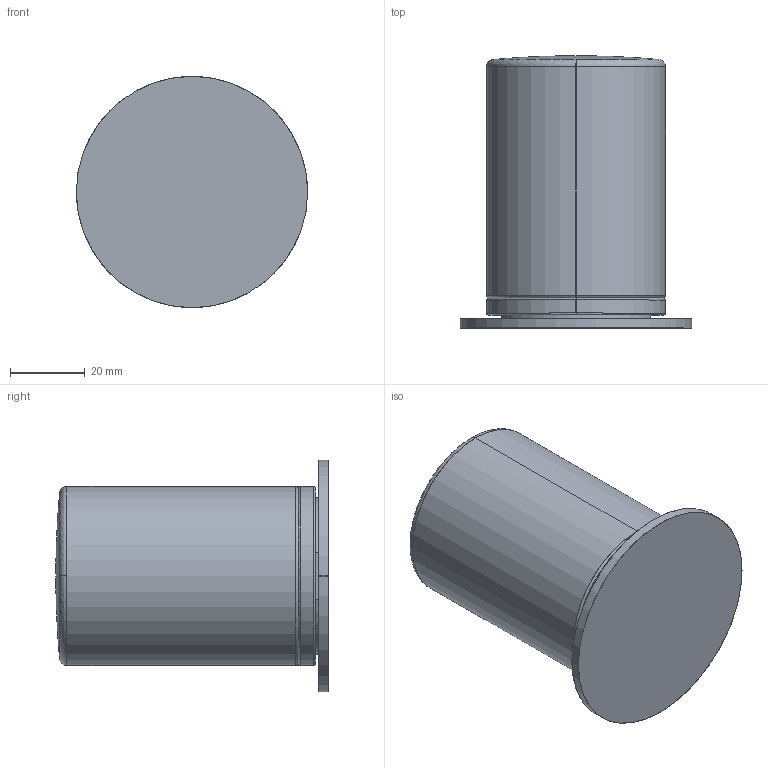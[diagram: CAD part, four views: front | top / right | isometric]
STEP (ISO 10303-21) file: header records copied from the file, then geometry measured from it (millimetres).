
FILE_DESCRIPTION(('STEP AP214'),'2;1');
FILE_NAME('DIS_3D_S991SB_D491A.stp','2025-11-05T12:27:55',(''),(''),'2015.2.119','THINKDESIGN','');
FILE_SCHEMA(('AUTOMOTIVE_DESIGN'));
Length unit declared in the file: millimetre
Products named in the file (1): top
Bounding box: 62 x 73 x 62 mm (x, y, z)
Surface area: 19063.7 mm2 (no closed solid volume)
Topology: 0 solids, 0 shells, 30 faces, 122 edges, 120 vertices
Faces by surface type: bspline 12, cylinder 10, plane 8
Entity records: 1303 total; most frequent: CARTESIAN_POINT 705, DIRECTION 124, COMPOSITE_CURVE_SEGMENT 120, TRIMMED_CURVE 61, AXIS2_PLACEMENT_3D 44, VECTOR 36, LINE 36, OUTER_BOUNDARY_CURVE 30
